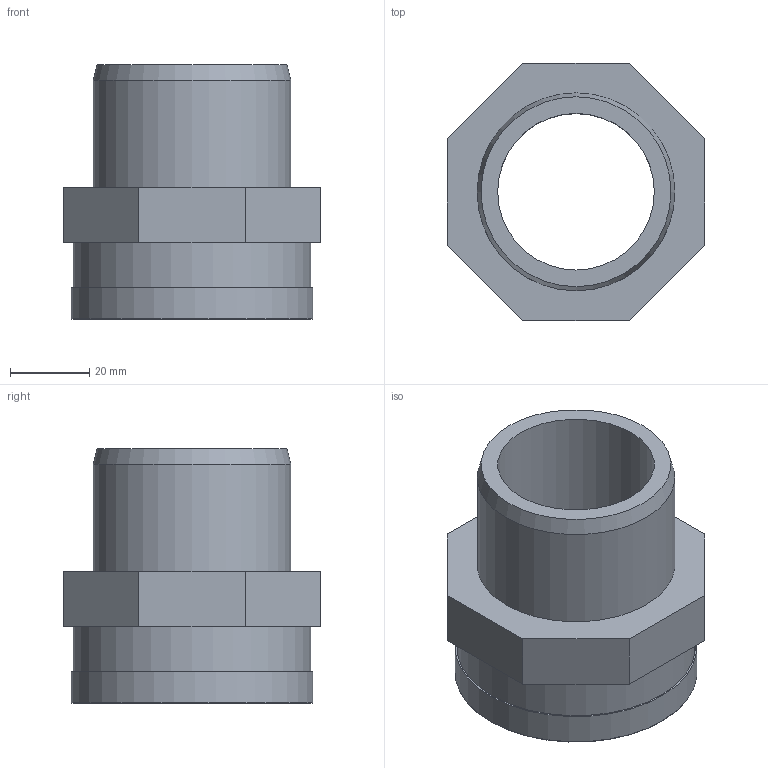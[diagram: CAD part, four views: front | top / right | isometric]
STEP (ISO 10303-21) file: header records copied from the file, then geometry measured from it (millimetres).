
FILE_DESCRIPTION(/* description */ (''),/* implementation_level */ '2;1');
FILE_NAME(/* name */ 'C:\Users\POLYPIPE\Desktop\DATASET INVENTOR\LIBRERIA EFFAST\RACCORDI 3DxWEB\RGR\3D_RGRAFR\3D_RGRAFR050F.stp',/* time_stamp */ '2018-01-19T17:31:37+01:00',/* author */ ('POLYPIPE'),/* organization */ (''),/* preprocessor_version */ 'ST-DEVELOPER v16.1',/* originating_system */ 'Autodesk Inventor 2016',/* authorisation */ '');
FILE_SCHEMA (('CONFIG_CONTROL_DESIGN'));
Length unit declared in the file: centimetre
Products named in the file (1): 3D_RGRAFR050F
Bounding box: 65 x 65 x 64.4 mm (x, y, z)
Volume: 73534.2 mm3; surface area: 29855.6 mm2
Topology: 1 solids, 1 shells, 31 faces, 66 edges, 43 vertices
Faces by surface type: plane 17, cylinder 7, bspline 5, cone 1, torus 1
Full cylindrical faces by diameter (mm): 39.6 x1, 44.845 x1, 50 x1, 51 x1, 60 x1, 60.4 x1, 61.2 x1
Entity records: 4564 total; most frequent: CARTESIAN_POINT 3878, DIRECTION 117, ORIENTED_EDGE 112, EDGE_CURVE 56, EDGE_LOOP 48, AXIS2_PLACEMENT_3D 45, VERTEX_POINT 42, STYLED_ITEM 32
